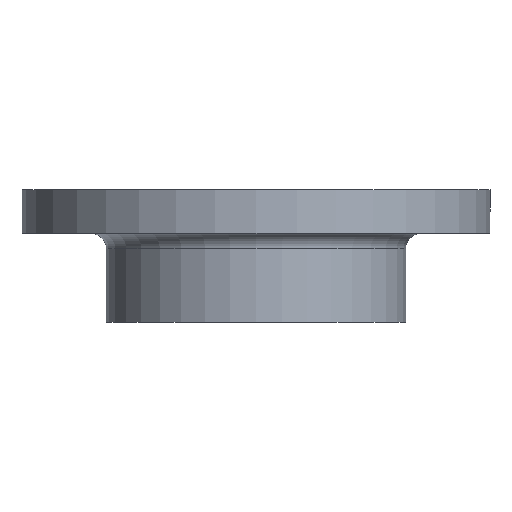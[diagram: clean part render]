
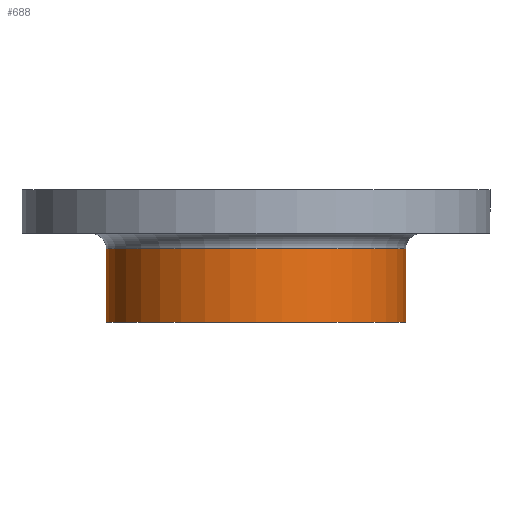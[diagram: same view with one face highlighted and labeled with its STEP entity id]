
A CAD part, front view. The second image highlights one B-rep face of the part: STEP entity #688.
In plain terms, the highlighted cylindrical face has radius 96 mm (diameter 192 mm), a partial arc.
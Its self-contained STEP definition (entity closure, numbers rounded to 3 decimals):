
#68 = CARTESIAN_POINT ( 'NONE',  ( -96., 0., -38. ) ) ;
#69 = EDGE_CURVE ( 'NONE', #611, #808, #413, .T. ) ;
#71 = EDGE_CURVE ( 'NONE', #811, #565, #83, .T. ) ;
#83 = CIRCLE ( 'NONE', #744, 96. ) ;
#86 = AXIS2_PLACEMENT_3D ( 'NONE', #860, #861, #862 ) ;
#91 = CARTESIAN_POINT ( 'NONE',  ( 96., 0., -85. ) ) ;
#143 = DIRECTION ( 'NONE',  ( 1., 0., 0. ) ) ;
#144 = DIRECTION ( 'NONE',  ( 0., 0., 1. ) ) ;
#145 = CARTESIAN_POINT ( 'NONE',  ( 0., 0., 0. ) ) ;
#147 = CYLINDRICAL_SURFACE ( 'NONE', #531, 96. ) ;
#149 = FACE_OUTER_BOUND ( 'NONE', #579, .T. ) ;
#231 = CARTESIAN_POINT ( 'NONE',  ( -96., 0., -85. ) ) ;
#265 = VECTOR ( 'NONE', #439, 1000. ) ;
#322 = DIRECTION ( 'NONE',  ( 1., 0., 0. ) ) ;
#365 = EDGE_CURVE ( 'NONE', #808, #565, #435, .T. ) ;
#396 = EDGE_CURVE ( 'NONE', #611, #811, #459, .T. ) ;
#413 = CIRCLE ( 'NONE', #86, 96. ) ;
#435 = LINE ( 'NONE', #436, #265 ) ;
#436 = CARTESIAN_POINT ( 'NONE',  ( 96., 0., 0. ) ) ;
#439 = DIRECTION ( 'NONE',  ( 0., 0., 1. ) ) ;
#459 = LINE ( 'NONE', #460, #532 ) ;
#460 = CARTESIAN_POINT ( 'NONE',  ( -96., 0., 0. ) ) ;
#461 = DIRECTION ( 'NONE',  ( 0., 0., 1. ) ) ;
#519 = CARTESIAN_POINT ( 'NONE',  ( 96., 0., -38. ) ) ;
#531 = AXIS2_PLACEMENT_3D ( 'NONE', #145, #144, #143 ) ;
#532 = VECTOR ( 'NONE', #461, 1000. ) ;
#565 = VERTEX_POINT ( 'NONE', #519 ) ;
#579 = EDGE_LOOP ( 'NONE', ( #711, #712, #713, #714 ) ) ;
#611 = VERTEX_POINT ( 'NONE', #231 ) ;
#688 = ADVANCED_FACE ( 'NONE', ( #149 ), #147, .T. ) ;
#711 = ORIENTED_EDGE ( 'NONE', *, *, #396, .F. ) ;
#712 = ORIENTED_EDGE ( 'NONE', *, *, #69, .T. ) ;
#713 = ORIENTED_EDGE ( 'NONE', *, *, #365, .T. ) ;
#714 = ORIENTED_EDGE ( 'NONE', *, *, #71, .F. ) ;
#744 = AXIS2_PLACEMENT_3D ( 'NONE', #863, #864, #322 ) ;
#808 = VERTEX_POINT ( 'NONE', #91 ) ;
#811 = VERTEX_POINT ( 'NONE', #68 ) ;
#860 = CARTESIAN_POINT ( 'NONE',  ( 0., 0., -85. ) ) ;
#861 = DIRECTION ( 'NONE',  ( 0., 0., 1. ) ) ;
#862 = DIRECTION ( 'NONE',  ( 1., 0., 0. ) ) ;
#863 = CARTESIAN_POINT ( 'NONE',  ( 0., 0., -38. ) ) ;
#864 = DIRECTION ( 'NONE',  ( 0., 0., 1. ) ) ;
